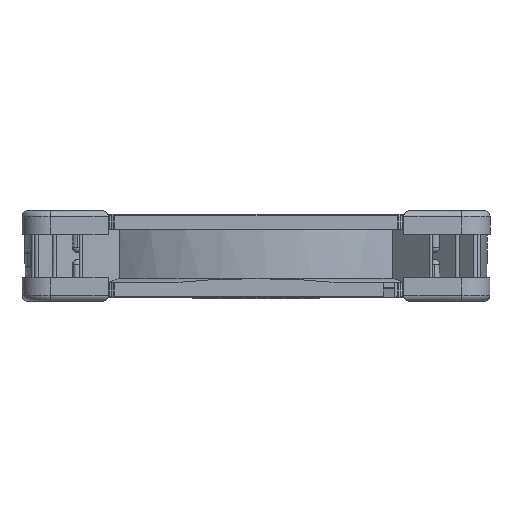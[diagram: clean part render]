
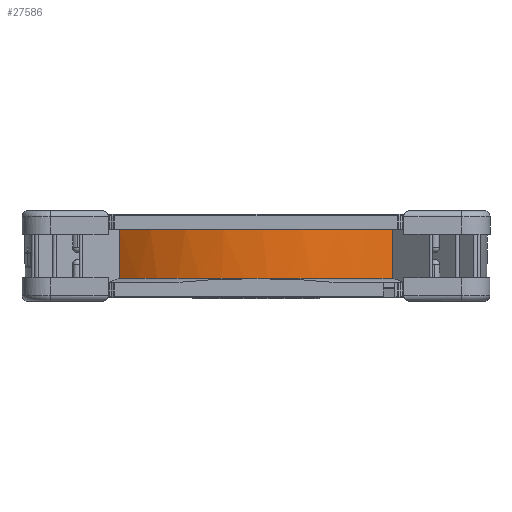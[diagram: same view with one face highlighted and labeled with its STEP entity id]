
A CAD part, left-side view. The second image highlights one B-rep face of the part: STEP entity #27586.
In plain terms, the highlighted conical face has half-angle 1.028 degrees and reference radius 69.197 mm.
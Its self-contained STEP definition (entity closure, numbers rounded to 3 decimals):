
#4044=CONICAL_SURFACE('',#30359,69.197,0.018);
#5555=B_SPLINE_CURVE_WITH_KNOTS('',3,(#45186,#45187,#45188,#45189,#45190,
#45191,#45192,#45193,#45194,#45195,#45196,#45197,#45198,#45199,#45200,#45201,
#45202,#45203,#45204,#45205,#45206,#45207,#45208,#45209,#45210,#45211,#45212,
#45213,#45214,#45215,#45216,#45217,#45218,#45219,#45220),.UNSPECIFIED.,
 .F.,.F.,(4,1,1,1,1,1,1,1,1,1,1,1,1,1,1,1,1,1,1,1,1,1,1,1,1,1,1,1,1,1,1,
1,4),(0.,0.063,0.094,0.109,0.125,0.141,0.156,0.188,0.219,
0.25,0.281,0.313,0.344,0.375,0.406,0.438,0.5,0.563,0.594,0.625,
0.656,0.688,0.719,0.75,0.781,0.813,0.844,0.859,0.875,0.891,
0.906,0.938,1.),.UNSPECIFIED.);
#5600=B_SPLINE_CURVE_WITH_KNOTS('',3,(#45598,#45599,#45600,#45601),
 .UNSPECIFIED.,.F.,.F.,(4,4),(0.,1.),.UNSPECIFIED.);
#5601=B_SPLINE_CURVE_WITH_KNOTS('',3,(#45603,#45604,#45605,#45606),
 .UNSPECIFIED.,.F.,.F.,(4,4),(0.,1.),.UNSPECIFIED.);
#5602=B_SPLINE_CURVE_WITH_KNOTS('',3,(#45608,#45609,#45610,#45611,#45612,
#45613,#45614),.UNSPECIFIED.,.F.,.F.,(4,1,1,1,4),(0.,0.25,0.5,0.75,1.),
 .UNSPECIFIED.);
#10226=ORIENTED_EDGE('',*,*,#17431,.T.);
#10227=ORIENTED_EDGE('',*,*,#17348,.T.);
#10228=ORIENTED_EDGE('',*,*,#17432,.T.);
#10229=ORIENTED_EDGE('',*,*,#17433,.T.);
#17348=EDGE_CURVE('',#21190,#21189,#5555,.F.);
#17431=EDGE_CURVE('',#21250,#21190,#5600,.T.);
#17432=EDGE_CURVE('',#21189,#21251,#5601,.T.);
#17433=EDGE_CURVE('',#21251,#21250,#5602,.F.);
#21189=VERTEX_POINT('',#45185);
#21190=VERTEX_POINT('',#45221);
#21250=VERTEX_POINT('',#45602);
#21251=VERTEX_POINT('',#45607);
#23840=EDGE_LOOP('',(#10226,#10227,#10228,#10229));
#25679=FACE_BOUND('',#23840,.T.);
#27586=ADVANCED_FACE('',(#25679),#4044,.T.);
#30359=AXIS2_PLACEMENT_3D('',#45597,#33068,#33069);
#33068=DIRECTION('',(0.,0.,1.));
#33069=DIRECTION('',(1.,0.,0.));
#45185=CARTESIAN_POINT('',(-55.847,40.857,20.5));
#45186=CARTESIAN_POINT('',(-55.847,40.857,20.5));
#45187=CARTESIAN_POINT('',(-56.88,39.445,20.5));
#45188=CARTESIAN_POINT('',(-58.344,37.276,20.5));
#45189=CARTESIAN_POINT('',(-59.899,34.666,20.5));
#45190=CARTESIAN_POINT('',(-60.749,33.142,20.5));
#45191=CARTESIAN_POINT('',(-61.353,32.01,20.5));
#45192=CARTESIAN_POINT('',(-61.981,30.775,20.5));
#45193=CARTESIAN_POINT('',(-62.768,29.149,20.5));
#45194=CARTESIAN_POINT('',(-63.695,27.086,20.5));
#45195=CARTESIAN_POINT('',(-64.708,24.568,20.5));
#45196=CARTESIAN_POINT('',(-65.608,22.052,20.5));
#45197=CARTESIAN_POINT('',(-66.454,19.354,20.5));
#45198=CARTESIAN_POINT('',(-67.176,16.678,20.5));
#45199=CARTESIAN_POINT('',(-67.793,13.962,20.5));
#45200=CARTESIAN_POINT('',(-68.296,11.246,20.5));
#45201=CARTESIAN_POINT('',(-68.7,8.431,20.5));
#45202=CARTESIAN_POINT('',(-69.082,4.7,20.5));
#45203=CARTESIAN_POINT('',(-69.273,0.,20.5));
#45204=CARTESIAN_POINT('',(-69.082,-4.7,20.5));
#45205=CARTESIAN_POINT('',(-68.701,-8.431,20.5));
#45206=CARTESIAN_POINT('',(-68.296,-11.246,20.5));
#45207=CARTESIAN_POINT('',(-67.793,-13.962,20.5));
#45208=CARTESIAN_POINT('',(-67.176,-16.678,20.5));
#45209=CARTESIAN_POINT('',(-66.454,-19.354,20.5));
#45210=CARTESIAN_POINT('',(-65.608,-22.052,20.5));
#45211=CARTESIAN_POINT('',(-64.708,-24.568,20.5));
#45212=CARTESIAN_POINT('',(-63.695,-27.086,20.5));
#45213=CARTESIAN_POINT('',(-62.768,-29.149,20.5));
#45214=CARTESIAN_POINT('',(-61.981,-30.775,20.5));
#45215=CARTESIAN_POINT('',(-61.353,-32.01,20.5));
#45216=CARTESIAN_POINT('',(-60.749,-33.142,20.5));
#45217=CARTESIAN_POINT('',(-59.899,-34.666,20.5));
#45218=CARTESIAN_POINT('',(-58.344,-37.276,20.5));
#45219=CARTESIAN_POINT('',(-56.88,-39.445,20.5));
#45220=CARTESIAN_POINT('',(-55.847,-40.857,20.5));
#45221=CARTESIAN_POINT('',(-55.847,-40.857,20.5));
#45597=CARTESIAN_POINT('',(0.,0.,20.5));
#45598=CARTESIAN_POINT('',(-55.658,-40.668,5.792));
#45599=CARTESIAN_POINT('',(-55.721,-40.731,10.694));
#45600=CARTESIAN_POINT('',(-55.784,-40.794,15.597));
#45601=CARTESIAN_POINT('',(-55.847,-40.857,20.5));
#45602=CARTESIAN_POINT('',(-55.658,-40.668,5.792));
#45603=CARTESIAN_POINT('',(-55.847,40.857,20.5));
#45604=CARTESIAN_POINT('',(-55.784,40.794,15.597));
#45605=CARTESIAN_POINT('',(-55.721,40.731,10.694));
#45606=CARTESIAN_POINT('',(-55.658,40.668,5.792));
#45607=CARTESIAN_POINT('',(-55.658,40.668,5.792));
#45608=CARTESIAN_POINT('',(-55.658,-40.668,5.792));
#45609=CARTESIAN_POINT('',(-59.935,-34.814,5.792));
#45610=CARTESIAN_POINT('',(-66.626,-21.748,5.792));
#45611=CARTESIAN_POINT('',(-70.086,0.,5.792));
#45612=CARTESIAN_POINT('',(-66.626,21.748,5.792));
#45613=CARTESIAN_POINT('',(-59.935,34.814,5.792));
#45614=CARTESIAN_POINT('',(-55.658,40.668,5.792));
